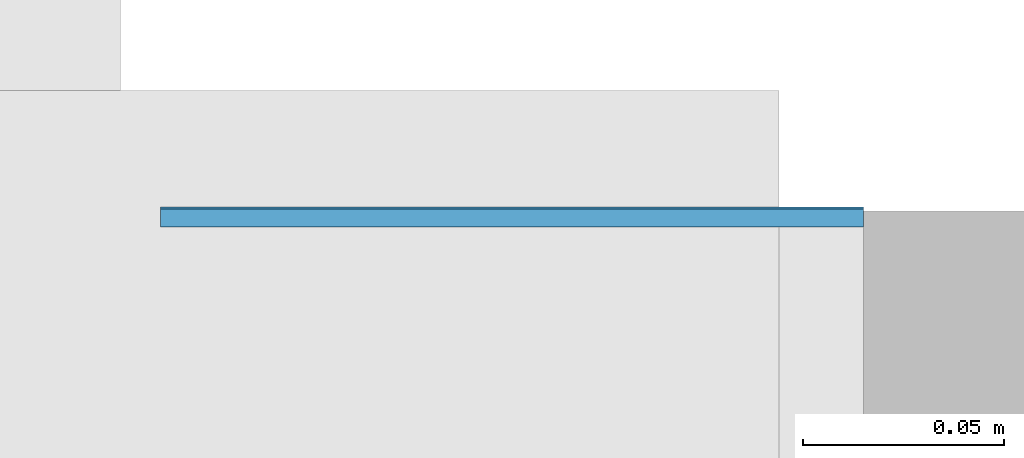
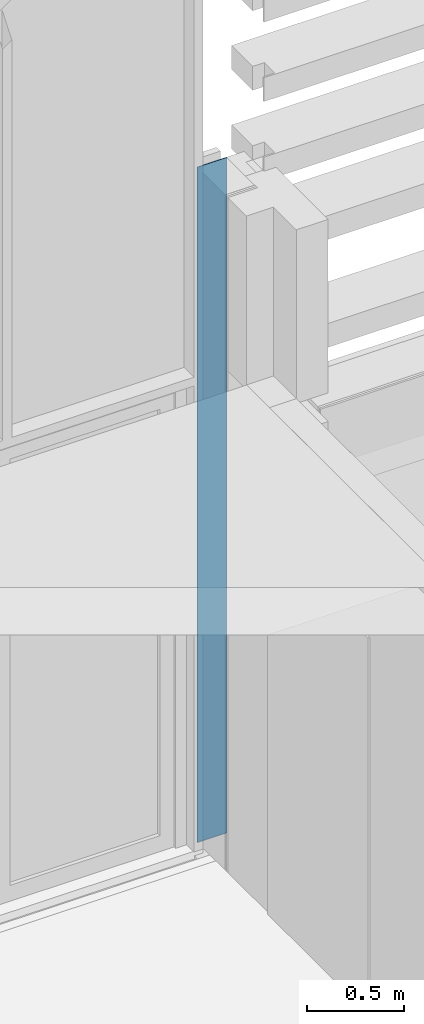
# One storey, part 83 of 109: 2 building element parts, 1 element without a shape of its own.
"""IFC2X3 building model written with IfcOpenShell, lengths in millimetres."""

from ifc_helpers import new_model, entity, si_unit, converted_unit, derived_unit, money_unit, direction, frame, origin_with_axes, place, context, subcontext, project, spatial, faceted_brep, material, type_object, element, aggregate, save


model = new_model("IFC2X3")

# Units and contexts
model_context = context("Model", 3, precision=0.01, world=origin_with_axes(), true_north=direction((0.0, 1.0)))
body_context = subcontext(model_context, "Body", "Model", "MODEL_VIEW")
ifc_project = project(units=[si_unit("LENGTHUNIT", "METRE", prefix="MILLI"), si_unit("AREAUNIT", "SQUARE_METRE"), si_unit("VOLUMEUNIT", "CUBIC_METRE"), converted_unit("PLANEANGLEUNIT", "DEGREE", entity("IfcPlaneAngleMeasure", 0.0174532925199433), si_unit("PLANEANGLEUNIT", "RADIAN"), dimensions=[0, 0, 0, 0, 0, 0, 0]), money_unit("EUR"), converted_unit("TIMEUNIT", "Year", entity("IfcTimeMeasure", 31557600.0), si_unit("TIMEUNIT", "SECOND"), dimensions=[0, 0, 1, 0, 0, 0, 0]), si_unit("MASSUNIT", "GRAM", prefix="KILO"), si_unit("THERMODYNAMICTEMPERATUREUNIT", "DEGREE_CELSIUS"), si_unit("LUMINOUSINTENSITYUNIT", "LUMEN"), si_unit("ENERGYUNIT", "JOULE", prefix="MEGA"), derived_unit("THERMALCONDUCTANCEUNIT", [(si_unit("POWERUNIT", "WATT"), 1), (si_unit("LENGTHUNIT", "METRE"), -1), (si_unit("THERMODYNAMICTEMPERATUREUNIT", "KELVIN"), -1)]), derived_unit("SPECIFICHEATCAPACITYUNIT", [(si_unit("ENERGYUNIT", "JOULE"), 1), (si_unit("MASSUNIT", "GRAM", prefix="KILO"), -1), (si_unit("THERMODYNAMICTEMPERATUREUNIT", "KELVIN"), -1)]), derived_unit("MASSDENSITYUNIT", [(si_unit("MASSUNIT", "GRAM", prefix="KILO"), 1), (si_unit("VOLUMEUNIT", "CUBIC_METRE"), -1)])], contexts=[model_context])

# Site, building, storey
site_placement = place(None, origin_with_axes())
site = spatial("IfcSite", under=ifc_project, at=site_placement, Name="<site naam>", CompositionType="ELEMENT")
building_placement = place(site_placement, origin_with_axes())
building = spatial("IfcBuilding", under=site, at=building_placement, Name="<Naam gebouw>", CompositionType="ELEMENT")
storey_placement = place(building_placement, origin_with_axes())
storey = spatial("IfcBuildingStorey", under=building, at=storey_placement, Name="00 Begane grond", CompositionType="ELEMENT", Elevation=0.0)

# Wall, building element parts
wall_type = type_object("IfcWallType", Name="HSB_285 gevelbeplating 420", PredefinedType="NOTDEFINED")
wall_placement = place(storey_placement, frame((51825.00000000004, 20297.99999999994, 0.0), z_axis=(0.0, 0.0, 1.0), x_axis=(1.0, 0.0, 0.0)))
wall = element("IfcWall", 1, at=wall_placement, inside=storey, type_object=wall_type, Name="21_Binnenwand_HSB_285")
ifc_material_1 = material(Name="brandwerende_bekleding")
building_element_part_1_placement = place(wall_placement, origin_with_axes())
building_element_part_1 = element("IfcBuildingElementPart", 2, at=building_element_part_1_placement, material=ifc_material_1, Name="brandwerende_bekleding", context=body_context, shape_type="Brep", body=[
    faceted_brep([(174.9999999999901, -106.9999999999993, 4250.0), (174.9999999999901, -102.4999999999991, 4250.0), (0.0, -102.4999999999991, 4250.0), (0.0, -106.9999999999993, 4250.0), (174.9999999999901, -106.9999999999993, 0.0), (174.9999999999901, -102.4999999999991, 0.0), (0.0, -102.4999999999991, 0.0), (0.0, -106.9999999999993, 0.0)], [[[0, 1, 2, 3]], [[0, 4, 5, 1]], [[1, 5, 6, 2]], [[3, 2, 6, 7]], [[4, 0, 3, 7]], [[5, 4, 7, 6]]]),
])
ifc_material_2 = material(Name="folie_dampopen")
building_element_part_2_placement = place(wall_placement, origin_with_axes())
building_element_part_2 = element("IfcBuildingElementPart", 3, at=building_element_part_2_placement, material=ifc_material_2, Name="folie_dampopen", context=body_context, shape_type="Brep", body=[
    faceted_brep([(174.9999999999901, -102.4999999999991, 4250.0), (174.9999999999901, -102.0000000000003, 4250.0), (0.0, -102.0000000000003, 4250.0), (0.0, -102.4999999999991, 4250.0), (174.9999999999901, -102.4999999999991, 0.0), (174.9999999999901, -102.0000000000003, 0.0), (0.0, -102.0000000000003, 0.0), (0.0, -102.4999999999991, 0.0)], [[[0, 1, 2, 3]], [[0, 4, 5, 1]], [[1, 5, 6, 2]], [[3, 2, 6, 7]], [[4, 0, 3, 7]], [[5, 4, 7, 6]]]),
])
aggregate(wall, [building_element_part_1, building_element_part_2])

save(model, "model.ifc")
